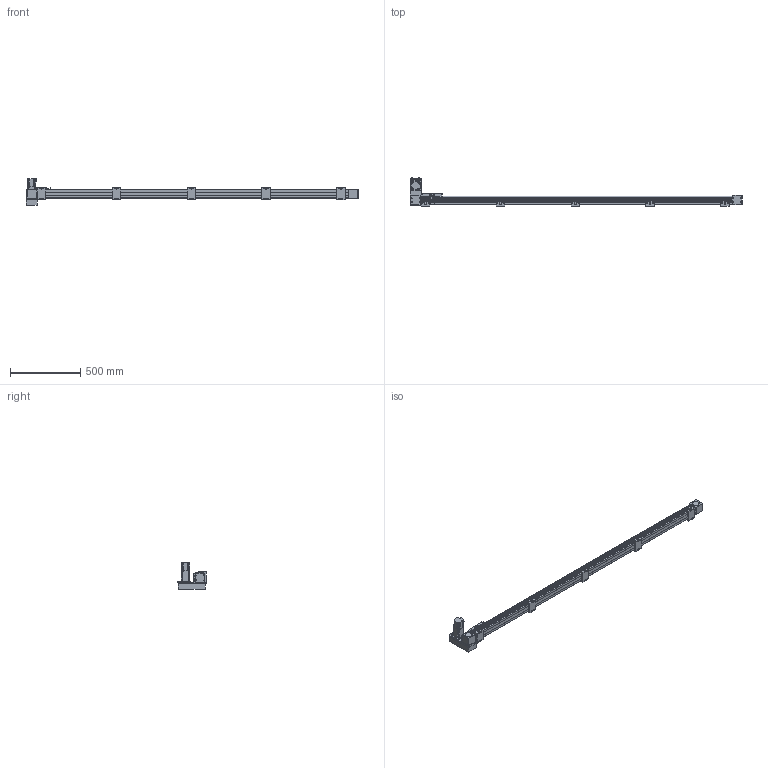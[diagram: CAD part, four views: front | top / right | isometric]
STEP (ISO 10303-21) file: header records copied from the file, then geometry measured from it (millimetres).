
FILE_DESCRIPTION(/* description */ ('STEP AP214'),/* implementation_level */ '2;1');
FILE_NAME(/* name */ 'SK60-P13-S2050-LU-T40-C1-N(0)',/* time_stamp */ '2023-04-06T04:48:28+02:00',/* author */ ('License CC BY-ND 4.0'),/* organization */ ('CADENAS'),/* preprocessor_version */ 'ST-DEVELOPER v19.3',/* originating_system */ 'PARTsolutions',/* authorisation */ ' ');
FILE_SCHEMA (('AUTOMOTIVE_DESIGN {1 0 10303 214 3 1 1}'));
Length unit declared in the file: millimetre
Products named in the file (10): SK60-P13-S2050-LU-T40-C1-N(0); PSC140-sensor; SK60-S450_seat; SK60-S450-BL-C1_slider; SK60_body3; SK60_body6; SK60-BL_body2; T40-p1; SK60-LU_fb; SK60-S2050-LU-C1_body
Assembly tree (19 placements, depth 2):
  SK60-P13-S2050-LU-T40-C1-N(0)
    PSC140-sensor  x3
    SK60-S450_seat  x5
    SK60-S450-BL-C1_slider
    SK60_body3  x3
    SK60_body6  x2
    SK60-BL_body2  x2
    T40-p1
    SK60-LU_fb
    SK60-S2050-LU-C1_body
Bounding box: 2355.5 x 201 x 189.7 mm (x, y, z)
Volume: 9229431 mm3; surface area: 1108099.1 mm2
Topology: 19 solids, 19 shells, 942 faces, 2342 edges, 1541 vertices
Faces by surface type: plane 596, cylinder 310, cone 34, torus 2
Full cylindrical faces by diameter (mm): 2.8 x3, 3.3 x4, 4 x2, 4.5 x30, 4.6 x3, 4.917 x28, 5 x6, 5.478 x4, 5.5 x31, 6.5 x10, 7 x2, 8 x4, 8.5 x4, 9.988 x4, 10 x20, 14 x1, 47 x3, 50 x2
Entity records: 18679 total; most frequent: DIRECTION 3190, CARTESIAN_POINT 3153, ORIENTED_EDGE 2940, EDGE_CURVE 1470, AXIS2_PLACEMENT_3D 1071, LINE 1048, VECTOR 1048, VERTEX_POINT 1034
